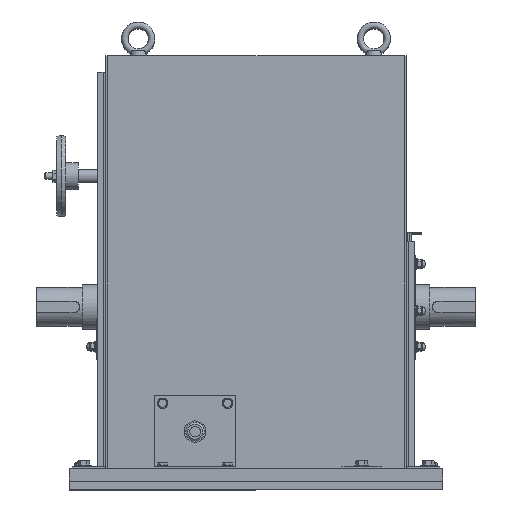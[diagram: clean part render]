
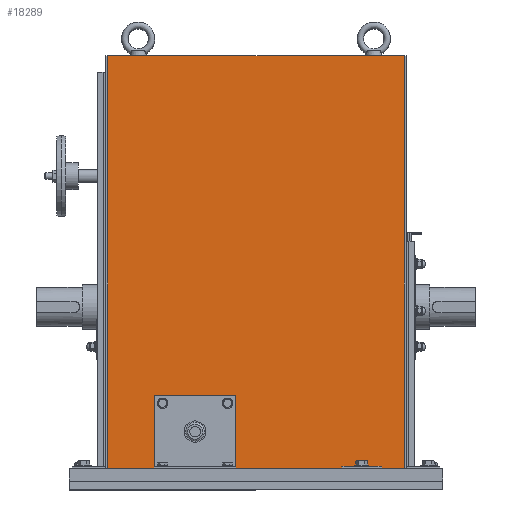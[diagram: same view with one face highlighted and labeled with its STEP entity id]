
A CAD part, top view. The second image highlights one B-rep face of the part: STEP entity #18289.
In plain terms, the highlighted planar face has unit normal (0, 0, 1).
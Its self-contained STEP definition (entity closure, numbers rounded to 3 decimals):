
#34 = ORIENTED_EDGE ( 'NONE', *, *, #24597, .F. ) ;
#71 = CARTESIAN_POINT ( 'NONE',  ( 380., -196.7, 230. ) ) ;
#103 = CARTESIAN_POINT ( 'NONE',  ( 245., -109., 230. ) ) ;
#116 = LINE ( 'NONE', #8963, #11000 ) ;
#361 = VERTEX_POINT ( 'NONE', #8817 ) ;
#510 = ORIENTED_EDGE ( 'NONE', *, *, #17867, .F. ) ;
#1434 = EDGE_LOOP ( 'NONE', ( #21270, #21482, #7380, #510, #7588, #34, #10309, #18467, #25706, #10526, #26710, #7953, #12108, #17484 ) ) ;
#2656 = EDGE_CURVE ( 'NONE', #21946, #13152, #3212, .T. ) ;
#2888 = EDGE_CURVE ( 'NONE', #14490, #22701, #13300, .T. ) ;
#2981 = CARTESIAN_POINT ( 'NONE',  ( 87.3, -199., 230. ) ) ;
#3071 = DIRECTION ( 'NONE',  ( -1., 0., 0. ) ) ;
#3212 = LINE ( 'NONE', #20771, #4186 ) ;
#3756 = VECTOR ( 'NONE', #18091, 1000. ) ;
#4186 = VECTOR ( 'NONE', #9290, 1000. ) ;
#4576 = DIRECTION ( 'NONE',  ( 1., 0., 0. ) ) ;
#4901 = EDGE_CURVE ( 'NONE', #11387, #14703, #5367, .T. ) ;
#5199 = VERTEX_POINT ( 'NONE', #23499 ) ;
#5367 = LINE ( 'NONE', #16825, #26989 ) ;
#5438 = CARTESIAN_POINT ( 'NONE',  ( 245., -199., 230. ) ) ;
#5672 = EDGE_CURVE ( 'NONE', #27785, #5199, #12633, .T. ) ;
#5976 = CARTESIAN_POINT ( 'NONE',  ( 380., -196.7, 230. ) ) ;
#6026 = EDGE_CURVE ( 'NONE', #19903, #13152, #12160, .T. ) ;
#6225 = CARTESIAN_POINT ( 'NONE',  ( 452.7, -199., 230. ) ) ;
#6245 = VERTEX_POINT ( 'NONE', #27618 ) ;
#6836 = DIRECTION ( 'NONE',  ( 1., 0., 0. ) ) ;
#7262 = CARTESIAN_POINT ( 'NONE',  ( 87.3, -199., 230. ) ) ;
#7380 = ORIENTED_EDGE ( 'NONE', *, *, #4901, .F. ) ;
#7588 = ORIENTED_EDGE ( 'NONE', *, *, #23846, .T. ) ;
#7762 = DIRECTION ( 'NONE',  ( 0., 0., -1. ) ) ;
#7953 = ORIENTED_EDGE ( 'NONE', *, *, #6026, .T. ) ;
#8553 = VERTEX_POINT ( 'NONE', #14087 ) ;
#8817 = CARTESIAN_POINT ( 'NONE',  ( 375.4, -199., 230. ) ) ;
#8963 = CARTESIAN_POINT ( 'NONE',  ( 87.3, -199., 230. ) ) ;
#9080 = CARTESIAN_POINT ( 'NONE',  ( 420., -196.7, 230. ) ) ;
#9290 = DIRECTION ( 'NONE',  ( 1., 0., 0. ) ) ;
#9579 = DIRECTION ( 'NONE',  ( 0., -1., 0. ) ) ;
#10086 = PLANE ( 'NONE',  #25766 ) ;
#10309 = ORIENTED_EDGE ( 'NONE', *, *, #5672, .F. ) ;
#10526 = ORIENTED_EDGE ( 'NONE', *, *, #17457, .T. ) ;
#11000 = VECTOR ( 'NONE', #15639, 1000. ) ;
#11233 = EDGE_CURVE ( 'NONE', #8553, #26410, #12057, .T. ) ;
#11248 = CARTESIAN_POINT ( 'NONE',  ( 145., -199., 230. ) ) ;
#11387 = VERTEX_POINT ( 'NONE', #103 ) ;
#11398 = VECTOR ( 'NONE', #3071, 1000. ) ;
#11708 = CARTESIAN_POINT ( 'NONE',  ( 87.3, -199., 230. ) ) ;
#11750 = VECTOR ( 'NONE', #20641, 1000. ) ;
#11777 = LINE ( 'NONE', #13955, #11750 ) ;
#12057 = LINE ( 'NONE', #23215, #11398 ) ;
#12061 = EDGE_CURVE ( 'NONE', #14490, #21946, #18152, .T. ) ;
#12104 = EDGE_CURVE ( 'NONE', #6245, #19903, #22626, .T. ) ;
#12108 = ORIENTED_EDGE ( 'NONE', *, *, #2656, .F. ) ;
#12160 = LINE ( 'NONE', #25198, #13596 ) ;
#12633 = LINE ( 'NONE', #5976, #18238 ) ;
#13151 = EDGE_CURVE ( 'NONE', #14703, #22701, #11777, .T. ) ;
#13152 = VERTEX_POINT ( 'NONE', #16286 ) ;
#13300 = LINE ( 'NONE', #26647, #3756 ) ;
#13596 = VECTOR ( 'NONE', #27839, 1000. ) ;
#13657 = VECTOR ( 'NONE', #20955, 1000. ) ;
#13925 = CARTESIAN_POINT ( 'NONE',  ( 375.4, -196.7, 230. ) ) ;
#13955 = CARTESIAN_POINT ( 'NONE',  ( 145., -199., 230. ) ) ;
#14087 = CARTESIAN_POINT ( 'NONE',  ( 424.6, -196.7, 230. ) ) ;
#14490 = VERTEX_POINT ( 'NONE', #11708 ) ;
#14586 = CARTESIAN_POINT ( 'NONE',  ( 424.6, -196.7, 230. ) ) ;
#14703 = VERTEX_POINT ( 'NONE', #24291 ) ;
#15639 = DIRECTION ( 'NONE',  ( 1., 0., 0. ) ) ;
#16286 = CARTESIAN_POINT ( 'NONE',  ( 452.7, 309., 230. ) ) ;
#16537 = DIRECTION ( 'NONE',  ( -1., 0., 0. ) ) ;
#16751 = LINE ( 'NONE', #5438, #13657 ) ;
#16825 = CARTESIAN_POINT ( 'NONE',  ( 145., -109., 230. ) ) ;
#16897 = VECTOR ( 'NONE', #21122, 1000. ) ;
#17145 = DIRECTION ( 'NONE',  ( -1., 0., 0. ) ) ;
#17457 = EDGE_CURVE ( 'NONE', #8553, #6245, #18953, .T. ) ;
#17484 = ORIENTED_EDGE ( 'NONE', *, *, #12061, .F. ) ;
#17603 = EDGE_CURVE ( 'NONE', #27785, #26410, #19960, .T. ) ;
#17861 = DIRECTION ( 'NONE',  ( 0., 1., 0. ) ) ;
#17867 = EDGE_CURVE ( 'NONE', #22221, #11387, #16751, .T. ) ;
#18091 = DIRECTION ( 'NONE',  ( 1., 0., 0. ) ) ;
#18152 = LINE ( 'NONE', #24510, #28145 ) ;
#18238 = VECTOR ( 'NONE', #17145, 1000. ) ;
#18289 = ADVANCED_FACE ( 'NONE', ( #23132 ), #10086, .F. ) ;
#18467 = ORIENTED_EDGE ( 'NONE', *, *, #17603, .T. ) ;
#18585 = LINE ( 'NONE', #13925, #23803 ) ;
#18953 = LINE ( 'NONE', #14586, #16897 ) ;
#19903 = VERTEX_POINT ( 'NONE', #6225 ) ;
#19960 = LINE ( 'NONE', #71, #21982 ) ;
#20505 = CARTESIAN_POINT ( 'NONE',  ( 245., -199., 230. ) ) ;
#20641 = DIRECTION ( 'NONE',  ( 0., -1., 0. ) ) ;
#20771 = CARTESIAN_POINT ( 'NONE',  ( 87.3, 309., 230. ) ) ;
#20822 = CARTESIAN_POINT ( 'NONE',  ( 380., -196.7, 230. ) ) ;
#20955 = DIRECTION ( 'NONE',  ( 0., 1., 0. ) ) ;
#21122 = DIRECTION ( 'NONE',  ( 0., -1., 0. ) ) ;
#21270 = ORIENTED_EDGE ( 'NONE', *, *, #2888, .T. ) ;
#21482 = ORIENTED_EDGE ( 'NONE', *, *, #13151, .F. ) ;
#21946 = VERTEX_POINT ( 'NONE', #25882 ) ;
#21982 = VECTOR ( 'NONE', #4576, 1000. ) ;
#22221 = VERTEX_POINT ( 'NONE', #20505 ) ;
#22548 = VECTOR ( 'NONE', #6836, 1000. ) ;
#22626 = LINE ( 'NONE', #7262, #22548 ) ;
#22701 = VERTEX_POINT ( 'NONE', #11248 ) ;
#23132 = FACE_OUTER_BOUND ( 'NONE', #1434, .T. ) ;
#23215 = CARTESIAN_POINT ( 'NONE',  ( 420., -196.7, 230. ) ) ;
#23499 = CARTESIAN_POINT ( 'NONE',  ( 375.4, -196.7, 230. ) ) ;
#23803 = VECTOR ( 'NONE', #9579, 1000. ) ;
#23846 = EDGE_CURVE ( 'NONE', #22221, #361, #116, .T. ) ;
#24291 = CARTESIAN_POINT ( 'NONE',  ( 145., -109., 230. ) ) ;
#24510 = CARTESIAN_POINT ( 'NONE',  ( 87.3, -199., 230. ) ) ;
#24597 = EDGE_CURVE ( 'NONE', #5199, #361, #18585, .T. ) ;
#25198 = CARTESIAN_POINT ( 'NONE',  ( 452.7, -199., 230. ) ) ;
#25455 = DIRECTION ( 'NONE',  ( -1., 0., 0. ) ) ;
#25706 = ORIENTED_EDGE ( 'NONE', *, *, #11233, .F. ) ;
#25766 = AXIS2_PLACEMENT_3D ( 'NONE', #2981, #7762, #25455 ) ;
#25882 = CARTESIAN_POINT ( 'NONE',  ( 87.3, 309., 230. ) ) ;
#26410 = VERTEX_POINT ( 'NONE', #9080 ) ;
#26647 = CARTESIAN_POINT ( 'NONE',  ( 87.3, -199., 230. ) ) ;
#26710 = ORIENTED_EDGE ( 'NONE', *, *, #12104, .T. ) ;
#26989 = VECTOR ( 'NONE', #16537, 1000. ) ;
#27618 = CARTESIAN_POINT ( 'NONE',  ( 424.6, -199., 230. ) ) ;
#27785 = VERTEX_POINT ( 'NONE', #20822 ) ;
#27839 = DIRECTION ( 'NONE',  ( 0., 1., 0. ) ) ;
#28145 = VECTOR ( 'NONE', #17861, 1000. ) ;
